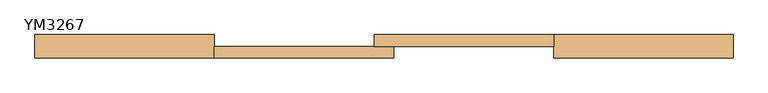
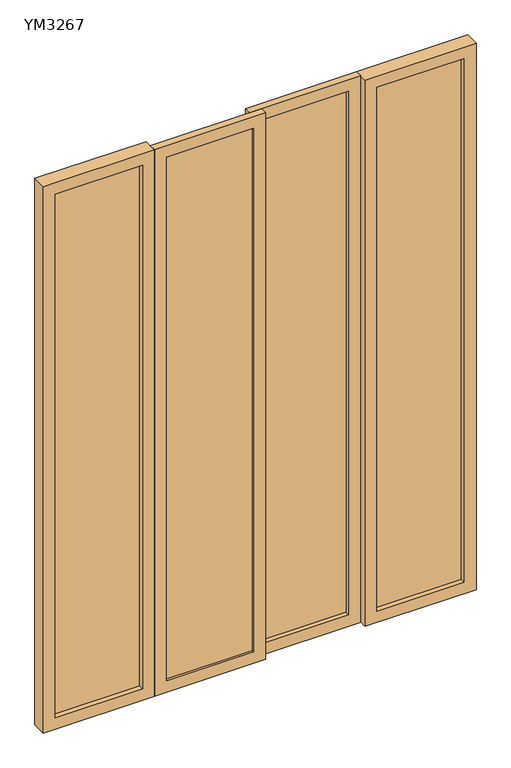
"""IFC4 building model written with IfcOpenShell, lengths in millimetres: door geometry, 移门-推拉门 : YM3267."""

from ifc_helpers import new_model, si_unit, frame, origin, place, context, project, spatial, polyline, outline, extrude, source, transform, mapped, element, save


def ym3267_4c35834f(model_context):
    return source(origin(), model_context, "Body", "SweptSolid", [
        extrude(outline(polyline([(-25.0, -5.0), (-387.5, -5.0), (-387.5, 5.0), (-25.0, 5.0), (-25.0, -5.0)])), frame((0.0, 0.0, 50.0), z_axis=(0.0, 0.0, 1.0), x_axis=(1.0, 0.0, 0.0)), (0.0, 0.0, 1.0), 2300.0),
        extrude(outline(polyline([(387.5, 35.0), (25.0, 35.0), (25.0, 45.0), (387.5, 45.0), (387.5, 35.0)])), frame((0.0, 0.0, 50.0), z_axis=(0.0, 0.0, 1.0), x_axis=(1.0, 0.0, 0.0)), (0.0, 0.0, 1.0), 2300.0),
        extrude(outline(polyline([(-487.5, 5.7105538), (-850.0, 5.7105538), (-850.0, 25.7105538), (-487.5, 25.7105538), (-487.5, 5.7105538)])), frame((0.0, 0.0, 50.0), z_axis=(0.0, 0.0, 1.0), x_axis=(1.0, 0.0, 0.0)), (0.0, 0.0, 1.0), 2300.0),
        extrude(outline(polyline([(850.0, 5.7105538), (487.5, 5.7105538), (487.5, 25.7105538), (850.0, 25.7105538), (850.0, 5.7105538)])), frame((0.0, 0.0, 50.0), z_axis=(0.0, 0.0, 1.0), x_axis=(1.0, 0.0, 0.0)), (0.0, 0.0, 1.0), 2300.0),
        extrude(outline(polyline([(0.0, 437.5), (2400.0, 437.5), (2400.0, -25.0), (0.0, -25.0), (0.0, 437.5)]), holes=[polyline([(2350.0, 25.0), (2350.0, 387.5), (50.0, 387.5), (50.0, 25.0), (2350.0, 25.0)])]), frame((0.0, 15.0, 0.0), z_axis=(0.0, 1.0, 0.0), x_axis=(0.0, 0.0, 1.0)), (0.0, 0.0, 1.0), 30.0),
        extrude(outline(polyline([(0.0, 25.0), (2400.0, 25.0), (2400.0, -437.5), (0.0, -437.5), (0.0, 25.0)]), holes=[polyline([(2350.0, -387.5), (2350.0, -25.0), (50.0, -25.0), (50.0, -387.5), (2350.0, -387.5)])]), frame((0.0, -15.0, 0.0), z_axis=(0.0, 1.0, 0.0), x_axis=(0.0, 0.0, 1.0)), (0.0, 0.0, 1.0), 30.0),
        extrude(outline(polyline([(0.0, -437.5), (2400.0, -437.5), (2400.0, -900.0), (0.0, -900.0), (0.0, -437.5)]), holes=[polyline([(2350.0, -850.0), (2350.0, -487.5), (50.0, -487.5), (50.0, -850.0), (2350.0, -850.0)])]), frame((0.0, -15.0, 0.0), z_axis=(0.0, 1.0, 0.0), x_axis=(0.0, 0.0, 1.0)), (0.0, 0.0, 1.0), 60.0),
        extrude(outline(polyline([(0.0, 900.0), (2400.0, 900.0), (2400.0, 437.5), (0.0, 437.5), (0.0, 900.0)]), holes=[polyline([(2350.0, 487.5), (2350.0, 850.0), (50.0, 850.0), (50.0, 487.5), (2350.0, 487.5)])]), frame((0.0, -15.0, 0.0), z_axis=(0.0, 1.0, 0.0), x_axis=(0.0, 0.0, 1.0)), (0.0, 0.0, 1.0), 60.0),
    ])


if __name__ == "__main__":
    model = new_model("IFC4")
    model_context = context("Model", 3, world=origin())
    ifc_project = project(units=[si_unit("LENGTHUNIT", "METRE", prefix="MILLI")], contexts=[model_context])
    site = spatial("IfcSite", under=ifc_project)
    building = spatial("IfcBuilding", under=site)
    placement = place(None, origin())
    ym3267_shape = ym3267_4c35834f(model_context)
    element("IfcDoor", 1, ObjectType="移门-推拉门 : YM3267", at=placement, inside=building, context=model_context, shape_type="MappedRepresentation", body=[
        mapped(ym3267_shape, transform((0.0, 0.0, 0.0), x_axis=(1.0, 0.0, 0.0), y_axis=(0.0, 1.0, 0.0), z_axis=(0.0, 0.0, 1.0))),
    ])
    save(model, "model.ifc")
